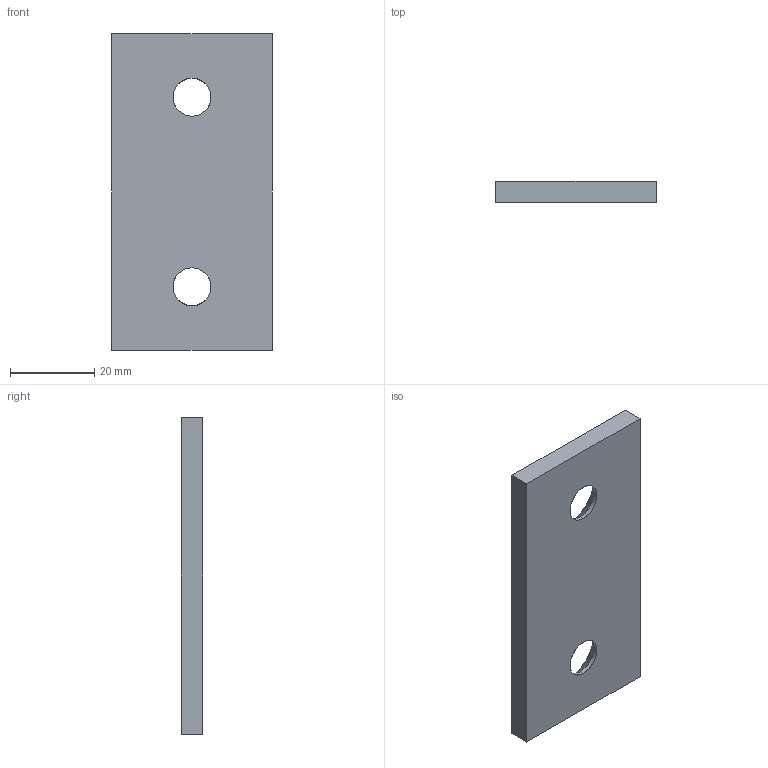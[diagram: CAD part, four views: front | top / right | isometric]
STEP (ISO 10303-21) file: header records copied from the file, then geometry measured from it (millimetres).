
FILE_DESCRIPTION(('CATIA V5 STEP Exchange'),'2;1');
FILE_NAME('C:\Users\Utente\Desktop\3D files A605\A605-038-075.stp','2020-04-13T15:44:48+00:00',('none'),('none'),'CATIA Version 5 Release 20 GA (IN-10)','CATIA V5 STEP AP203','none');
FILE_SCHEMA(('CONFIG_CONTROL_DESIGN'));
Length unit declared in the file: millimetre
Products named in the file (1): Noname
Bounding box: 38 x 5 x 75 mm (x, y, z)
Surface area: 6767.4 mm2 (no closed solid volume)
Topology: 0 solids, 10 shells, 14 faces, 56 edges, 48 vertices
Faces by surface type: extrusion 6, cylinder 4, revolution 4
Entity records: 726 total; most frequent: CARTESIAN_POINT 233, DIRECTION 66, ORIENTED_EDGE 64, EDGE_CURVE 56, VERTEX_POINT 48, VECTOR 38, LINE 32, AXIS2_PLACEMENT_3D 21
